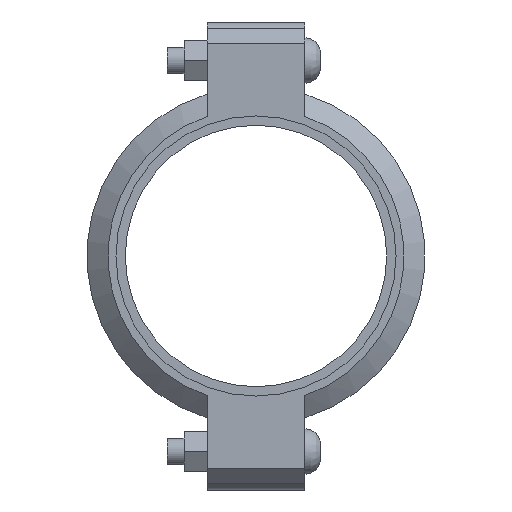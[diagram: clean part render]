
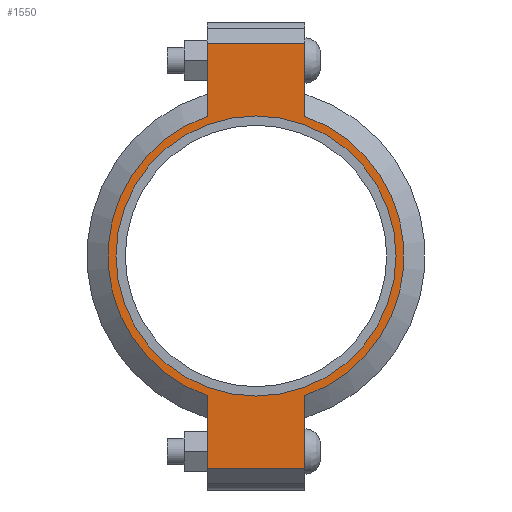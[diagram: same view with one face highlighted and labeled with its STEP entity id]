
A CAD part, left-side view. The second image highlights one B-rep face of the part: STEP entity #1550.
In plain terms, the highlighted planar face has unit normal (-1, 0, 0) as drawn and (0, 0, 1) by its records, which use the part's own axes.
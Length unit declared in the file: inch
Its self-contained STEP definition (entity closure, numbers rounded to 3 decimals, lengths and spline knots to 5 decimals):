
#174=LINE('',#2714,#267);
#182=LINE('',#2750,#275);
#189=LINE('',#2771,#282);
#198=LINE('',#2803,#291);
#199=LINE('',#2807,#292);
#200=LINE('',#2809,#293);
#267=VECTOR('',#2214,0.3937);
#275=VECTOR('',#2230,0.3937);
#282=VECTOR('',#2249,0.3937);
#291=VECTOR('',#2274,0.3937);
#292=VECTOR('',#2279,0.3937);
#293=VECTOR('',#2280,0.3937);
#349=FACE_BOUND('',#527,.T.);
#421=FACE_OUTER_BOUND('',#526,.T.);
#526=EDGE_LOOP('',(#1291,#1292,#1293,#1294,#1295,#1296,#1297,#1298));
#527=EDGE_LOOP('',(#1299));
#599=CIRCLE('',#1778,3.3125);
#625=CIRCLE('',#1837,3.5);
#626=CIRCLE('',#1838,3.5);
#691=VERTEX_POINT('',#2530);
#734=VERTEX_POINT('',#2711);
#735=VERTEX_POINT('',#2713);
#746=VERTEX_POINT('',#2745);
#747=VERTEX_POINT('',#2749);
#754=VERTEX_POINT('',#2768);
#755=VERTEX_POINT('',#2770);
#765=VERTEX_POINT('',#2806);
#766=VERTEX_POINT('',#2808);
#847=EDGE_CURVE('',#691,#691,#599,.T.);
#908=EDGE_CURVE('',#735,#734,#174,.T.);
#922=EDGE_CURVE('',#747,#746,#182,.T.);
#932=EDGE_CURVE('',#755,#754,#189,.T.);
#947=EDGE_CURVE('',#747,#734,#198,.T.);
#948=EDGE_CURVE('',#746,#755,#625,.T.);
#949=EDGE_CURVE('',#765,#754,#199,.T.);
#950=EDGE_CURVE('',#765,#766,#200,.T.);
#951=EDGE_CURVE('',#766,#735,#626,.T.);
#1291=ORIENTED_EDGE('',*,*,#947,.F.);
#1292=ORIENTED_EDGE('',*,*,#922,.T.);
#1293=ORIENTED_EDGE('',*,*,#948,.T.);
#1294=ORIENTED_EDGE('',*,*,#932,.T.);
#1295=ORIENTED_EDGE('',*,*,#949,.F.);
#1296=ORIENTED_EDGE('',*,*,#950,.T.);
#1297=ORIENTED_EDGE('',*,*,#951,.T.);
#1298=ORIENTED_EDGE('',*,*,#908,.T.);
#1299=ORIENTED_EDGE('',*,*,#847,.T.);
#1392=PLANE('',#1836);
#1550=ADVANCED_FACE('',(#421,#349),#1392,.T.);
#1778=AXIS2_PLACEMENT_3D('',#2532,#2090,#2091);
#1836=AXIS2_PLACEMENT_3D('',#2804,#2275,#2276);
#1837=AXIS2_PLACEMENT_3D('',#2805,#2277,#2278);
#1838=AXIS2_PLACEMENT_3D('',#2810,#2281,#2282);
#2090=DIRECTION('center_axis',(0.,0.,-1.));
#2091=DIRECTION('ref_axis',(1.,0.,0.));
#2214=DIRECTION('',(1.,0.,0.));
#2230=DIRECTION('',(-1.,0.,0.));
#2249=DIRECTION('',(-1.,0.,0.));
#2274=DIRECTION('',(0.,-1.,0.));
#2275=DIRECTION('center_axis',(0.,0.,1.));
#2276=DIRECTION('ref_axis',(-1.,0.,0.));
#2277=DIRECTION('center_axis',(0.,0.,1.));
#2278=DIRECTION('ref_axis',(1.,0.,0.));
#2279=DIRECTION('',(0.,1.,0.));
#2280=DIRECTION('',(1.,0.,0.));
#2281=DIRECTION('center_axis',(0.,0.,1.));
#2282=DIRECTION('ref_axis',(1.,0.,0.));
#2530=CARTESIAN_POINT('',(-3.3125,0.,1.065));
#2532=CARTESIAN_POINT('Origin',(0.,0.,1.065));
#2711=CARTESIAN_POINT('',(5.035,-1.156,1.065));
#2713=CARTESIAN_POINT('',(3.30358,-1.156,1.065));
#2714=CARTESIAN_POINT('',(5.535,-1.156,1.065));
#2745=CARTESIAN_POINT('',(3.30358,1.156,1.065));
#2749=CARTESIAN_POINT('',(5.035,1.156,1.065));
#2750=CARTESIAN_POINT('',(-5.535,1.156,1.065));
#2768=CARTESIAN_POINT('',(-5.035,1.156,1.065));
#2770=CARTESIAN_POINT('',(-3.30358,1.156,1.065));
#2771=CARTESIAN_POINT('',(-5.535,1.156,1.065));
#2803=CARTESIAN_POINT('',(5.035,-0.578,1.065));
#2804=CARTESIAN_POINT('Origin',(0.,0.,
1.065));
#2805=CARTESIAN_POINT('Origin',(0.,0.,1.065));
#2806=CARTESIAN_POINT('',(-5.035,-1.156,1.065));
#2807=CARTESIAN_POINT('',(-5.035,0.578,1.065));
#2808=CARTESIAN_POINT('',(-3.30358,-1.156,1.065));
#2809=CARTESIAN_POINT('',(5.535,-1.156,1.065));
#2810=CARTESIAN_POINT('Origin',(0.,0.,1.065));
